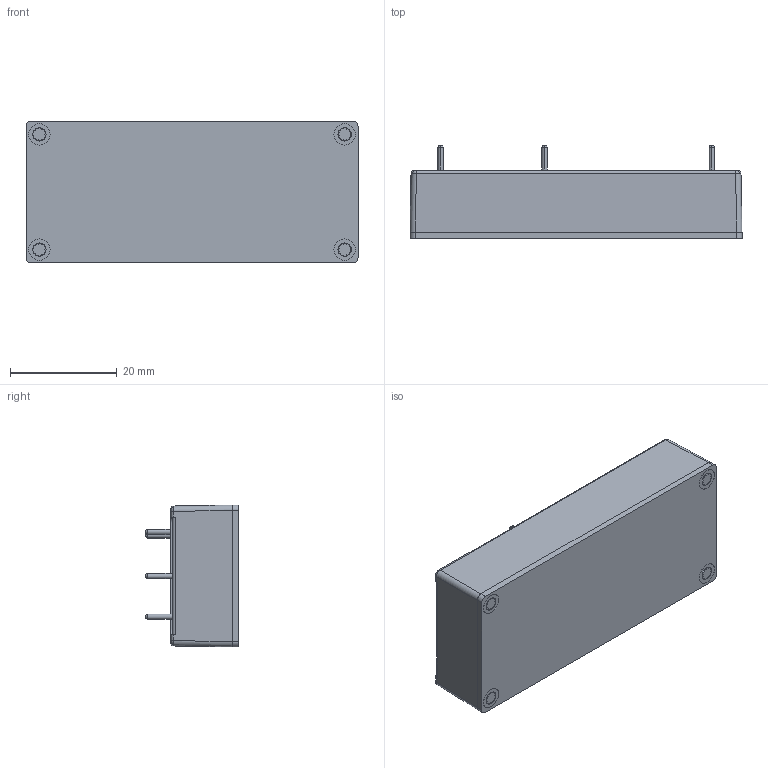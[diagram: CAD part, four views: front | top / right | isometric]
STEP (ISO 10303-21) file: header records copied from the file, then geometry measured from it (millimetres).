
FILE_DESCRIPTION (( 'STEP AP203' ), '1' );
FILE_NAME ('MF10D050 ²Õ¦X¹Ï-1130308.STEP', '2024-10-30T03:56:37', ( 'cincon' ), ( '' ), 'SwSTEP 2.0', 'SolidWorks 2020', '' );
FILE_SCHEMA (( 'CONFIG_CONTROL_DESIGN' ));
Length unit declared in the file: millimetre
Products named in the file (8): CEB100W鋁板[M-C1692-J]G6613060107(V1.0); CEB100W CASE[M-C1691-M]G5115510012(V1.1); MF10D050 BASE示意圖2022.11.22; MF10D050 PCB灌膠示意圖2023.05.24; MF10D050 組合圖-1130308; CEB100W 鋁板[M-C1692-J]G6613060107(V1.0); CEB100WｾTｪO ｶ鷄IN[M-C1692-J]G6613060107(V1.0); MF10D050 PCB示意圖2023.01.31
Assembly tree (10 placements, depth 3):
  MF10D050 組合圖-1130308
    CEB100W CASE[M-C1691-M]G5115510012(V1.1)
    MF10D050 PCB灌膠示意圖2023.05.24
    CEB100W 鋁板[M-C1692-J]G6613060107(V1.0)
      CEB100W鋁板[M-C1692-J]G6613060107(V1.0)
      CEB100WｾTｪO ｶ鷄IN[M-C1692-J]G6613060107(V1.0)  x4
    MF10D050 PCB示意圖2023.01.31
    MF10D050 BASE示意圖2022.11.22
Bounding box: 62.2 x 17.5 x 26.6 mm (x, y, z)
Volume: 13864.2 mm3; surface area: 20192.8 mm2
Topology: 10 solids, 10 shells, 584 faces, 1543 edges, 1004 vertices
Faces by surface type: cylinder 317, plane 214, cone 37, bspline 16
Entity records: 12685 total; most frequent: CARTESIAN_POINT 2594, DIRECTION 1955, ORIENTED_EDGE 1910, EDGE_CURVE 955, AXIS2_PLACEMENT_3D 727, VERTEX_POINT 614, VECTOR 501, LINE 501
